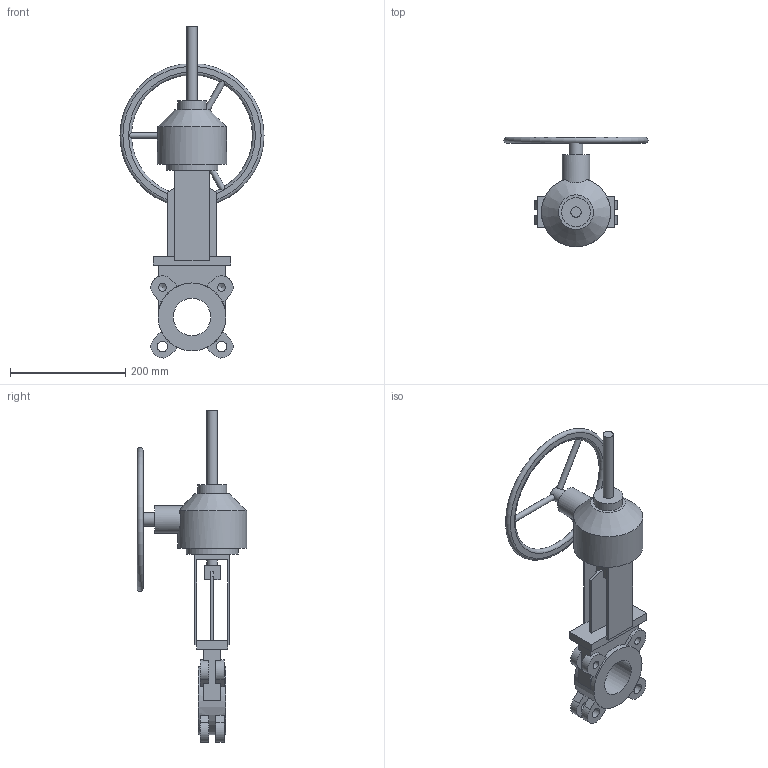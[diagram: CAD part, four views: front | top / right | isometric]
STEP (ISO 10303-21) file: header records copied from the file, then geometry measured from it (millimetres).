
FILE_DESCRIPTION(('STEP AP203'), '1');
FILE_NAME('Çàäâèæêà øèáåðíàÿ K21GV DN65 ðåäóêòîð+âûäâèæíîé øïèíäåëü', '', ('UNSPECIFIED'), ('UNSPECIFIED'), 'ASCON STEP Converter 1.6', 'ASCON Math Kernel', '');
FILE_SCHEMA(('CONFIG_CONTROL_DESIGN'));
Length unit declared in the file: millimetre
Bounding box: 250 x 190 x 576.19 mm (x, y, z)
Volume: 2179511.3 mm3; surface area: 270380.8 mm2
Topology: 1 solids, 1 shells, 118 faces, 312 edges, 201 vertices
Faces by surface type: plane 81, cylinder 28, cone 5, torus 4
Full cylindrical faces by diameter (mm): 10 x3, 13.835 x4, 18 x6, 24 x1, 48 x1, 50 x1, 65 x1, 90 x1, 118 x1, 120 x1
Entity records: 5863 total; most frequent: CARTESIAN_POINT 2008, DIRECTION 590, ORIENTED_EDGE 562, EDGE_CURVE 281, AXIS2_PLACEMENT_3D 205, VERTEX_POINT 197, LINE 180, VECTOR 180
